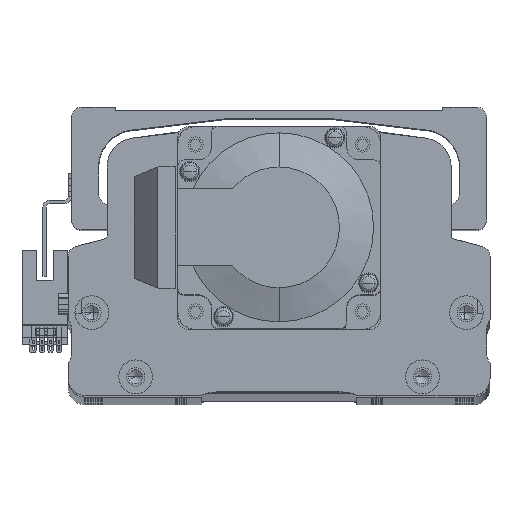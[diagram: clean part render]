
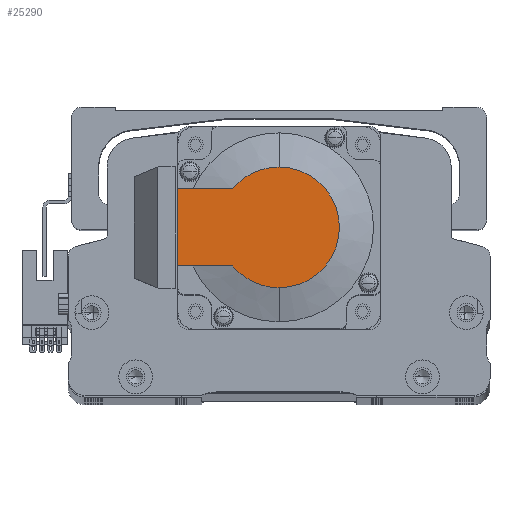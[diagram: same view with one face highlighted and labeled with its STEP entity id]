
A CAD part, top view. The second image highlights one B-rep face of the part: STEP entity #25290.
In plain terms, the highlighted planar face has unit normal (0, 0, 1) as drawn and (-1, 0, 0) by its records, which use the part's own axes.
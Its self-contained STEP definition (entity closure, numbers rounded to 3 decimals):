
#306 = AXIS2_PLACEMENT_3D ( 'NONE', #58559, #31138, #3482 ) ;
#1916 = ORIENTED_EDGE ( 'NONE', *, *, #6680, .T. ) ;
#3482 = DIRECTION ( 'NONE',  ( 0., 0., -1. ) ) ;
#6680 = EDGE_CURVE ( 'NONE', #56751, #20170, #27100, .T. ) ;
#7938 = AXIS2_PLACEMENT_3D ( 'NONE', #14923, #47131, #19567 ) ;
#8796 = DIRECTION ( 'NONE',  ( 0., -1., 0. ) ) ;
#10060 = FACE_OUTER_BOUND ( 'NONE', #43955, .T. ) ;
#10231 = CARTESIAN_POINT ( 'NONE',  ( -118.5, 0., 0. ) ) ;
#10352 = ORIENTED_EDGE ( 'NONE', *, *, #49750, .T. ) ;
#10682 = EDGE_CURVE ( 'NONE', #20170, #59705, #11431, .T. ) ;
#11431 = CIRCLE ( 'NONE', #306, 17.881 ) ;
#12803 = LINE ( 'NONE', #22119, #48118 ) ;
#14310 = EDGE_CURVE ( 'NONE', #44845, #49078, #56298, .T. ) ;
#14870 = DIRECTION ( 'NONE',  ( 0., 0., -1. ) ) ;
#14923 = CARTESIAN_POINT ( 'NONE',  ( -118.5, 0., 0. ) ) ;
#15143 = EDGE_CURVE ( 'NONE', #59705, #22003, #48277, .T. ) ;
#17769 = AXIS2_PLACEMENT_3D ( 'NONE', #25067, #57186, #29705 ) ;
#19567 = DIRECTION ( 'NONE',  ( 0., 0., -1. ) ) ;
#20170 = VERTEX_POINT ( 'NONE', #58377 ) ;
#22003 = VERTEX_POINT ( 'NONE', #57584 ) ;
#22119 = CARTESIAN_POINT ( 'NONE',  ( -118.5, -8.941, -11.45 ) ) ;
#25067 = CARTESIAN_POINT ( 'NONE',  ( -118.5, -8.941, 0. ) ) ;
#25290 = ADVANCED_FACE ( 'NONE', ( #10060 ), #33918, .T. ) ;
#27100 = CIRCLE ( 'NONE', #42624, 17.881 ) ;
#29705 = DIRECTION ( 'NONE',  ( 0., 0., 1. ) ) ;
#29960 = VECTOR ( 'NONE', #8796, 1000. ) ;
#31138 = DIRECTION ( 'NONE',  ( -1., 0., 0. ) ) ;
#32159 = CARTESIAN_POINT ( 'NONE',  ( -118.5, 0., 17.881 ) ) ;
#33658 = CARTESIAN_POINT ( 'NONE',  ( -118.5, 30., 25. ) ) ;
#33905 = ORIENTED_EDGE ( 'NONE', *, *, #35384, .F. ) ;
#33918 = PLANE ( 'NONE',  #17769 ) ;
#34479 = CARTESIAN_POINT ( 'NONE',  ( -118.5, 30., 11.45 ) ) ;
#35384 = EDGE_CURVE ( 'NONE', #49078, #22003, #42149, .T. ) ;
#36403 = CARTESIAN_POINT ( 'NONE',  ( -118.5, 0., 11.45 ) ) ;
#37959 = ORIENTED_EDGE ( 'NONE', *, *, #14310, .F. ) ;
#40449 = DIRECTION ( 'NONE',  ( 0., -1., 0. ) ) ;
#42149 = LINE ( 'NONE', #36403, #29960 ) ;
#42440 = DIRECTION ( 'NONE',  ( -1., 0., 0. ) ) ;
#42624 = AXIS2_PLACEMENT_3D ( 'NONE', #10231, #42440, #14870 ) ;
#42625 = VECTOR ( 'NONE', #42893, 1000. ) ;
#42731 = CARTESIAN_POINT ( 'NONE',  ( -118.5, 30., -11.45 ) ) ;
#42893 = DIRECTION ( 'NONE',  ( 0., 0., 1. ) ) ;
#43955 = EDGE_LOOP ( 'NONE', ( #10352, #1916, #51453, #59369, #33905, #37959 ) ) ;
#44845 = VERTEX_POINT ( 'NONE', #42731 ) ;
#47131 = DIRECTION ( 'NONE',  ( -1., 0., 0. ) ) ;
#48118 = VECTOR ( 'NONE', #40449, 1000. ) ;
#48277 = CIRCLE ( 'NONE', #7938, 17.881 ) ;
#48440 = CARTESIAN_POINT ( 'NONE',  ( -118.5, 13.735, -11.45 ) ) ;
#49078 = VERTEX_POINT ( 'NONE', #34479 ) ;
#49750 = EDGE_CURVE ( 'NONE', #44845, #56751, #12803, .T. ) ;
#51453 = ORIENTED_EDGE ( 'NONE', *, *, #10682, .T. ) ;
#56298 = LINE ( 'NONE', #33658, #42625 ) ;
#56751 = VERTEX_POINT ( 'NONE', #48440 ) ;
#57186 = DIRECTION ( 'NONE',  ( -1., 0., 0. ) ) ;
#57584 = CARTESIAN_POINT ( 'NONE',  ( -118.5, 13.735, 11.45 ) ) ;
#58377 = CARTESIAN_POINT ( 'NONE',  ( -118.5, 0., -17.881 ) ) ;
#58559 = CARTESIAN_POINT ( 'NONE',  ( -118.5, 0., 0. ) ) ;
#59369 = ORIENTED_EDGE ( 'NONE', *, *, #15143, .T. ) ;
#59705 = VERTEX_POINT ( 'NONE', #32159 ) ;
